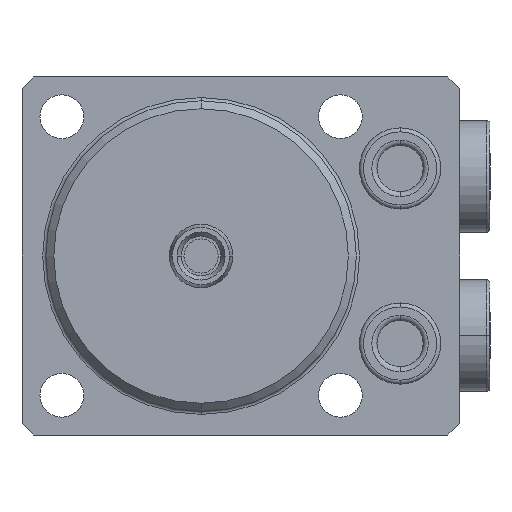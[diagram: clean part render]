
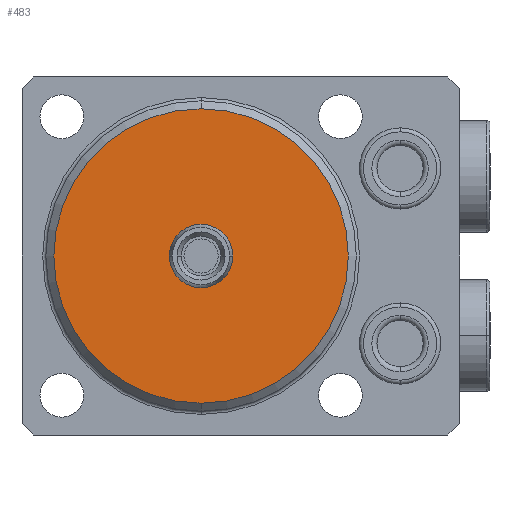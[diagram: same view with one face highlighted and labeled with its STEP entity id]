
A CAD part, front view. The second image highlights one B-rep face of the part: STEP entity #483.
In plain terms, the highlighted planar face has unit normal (0, -1, 0) as drawn and (0, 1, 0) by its records, which use the part's own axes.
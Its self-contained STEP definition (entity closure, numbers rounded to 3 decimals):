
#214=PLANE('',#5008);
#330=FACE_BOUND('',#1156,.F.);
#331=FACE_BOUND('',#1157,.F.);
#483=ADVANCED_FACE('',(#330,#331),#214,.T.);
#1156=EDGE_LOOP('',(#2074,#2075));
#1157=EDGE_LOOP('',(#2076,#2077));
#1440=CIRCLE('',#4882,4.);
#1495=CIRCLE('',#4960,18.5);
#1522=CIRCLE('',#5006,4.);
#1523=CIRCLE('',#5007,18.5);
#2074=ORIENTED_EDGE('',*,*,#3775,.T.);
#2075=ORIENTED_EDGE('',*,*,#3578,.T.);
#2076=ORIENTED_EDGE('',*,*,#3776,.T.);
#2077=ORIENTED_EDGE('',*,*,#3666,.T.);
#3130=VERTEX_POINT('',#7134);
#3131=VERTEX_POINT('',#7135);
#3202=VERTEX_POINT('',#7322);
#3203=VERTEX_POINT('',#7323);
#3578=EDGE_CURVE('',#3130,#3131,#1440,.T.);
#3666=EDGE_CURVE('',#3202,#3203,#1495,.T.);
#3775=EDGE_CURVE('',#3131,#3130,#1522,.T.);
#3776=EDGE_CURVE('',#3203,#3202,#1523,.T.);
#4882=AXIS2_PLACEMENT_3D('',#7133,#5556,#5557);
#4960=AXIS2_PLACEMENT_3D('',#7321,#5744,#5745);
#5006=AXIS2_PLACEMENT_3D('',#7616,#5893,#5894);
#5007=AXIS2_PLACEMENT_3D('',#7617,#5895,#5896);
#5008=AXIS2_PLACEMENT_3D('',#7618,#5897,#5898);
#5556=DIRECTION('',(0.,1.,0.));
#5557=DIRECTION('',(0.,0.,1.));
#5744=DIRECTION('',(0.,-1.,0.));
#5745=DIRECTION('',(0.,0.,1.));
#5893=DIRECTION('',(0.,1.,0.));
#5894=DIRECTION('',(0.,0.,1.));
#5895=DIRECTION('',(0.,-1.,0.));
#5896=DIRECTION('',(0.,0.,1.));
#5897=DIRECTION('',(0.,1.,0.));
#5898=DIRECTION('',(0.,0.,1.));
#7133=CARTESIAN_POINT('',(0.,-33.5,0.));
#7134=CARTESIAN_POINT('',(0.,-33.5,-4.));
#7135=CARTESIAN_POINT('',(0.,-33.5,4.));
#7321=CARTESIAN_POINT('',(0.,-33.5,0.));
#7322=CARTESIAN_POINT('',(0.,-33.5,-18.5));
#7323=CARTESIAN_POINT('',(0.,-33.5,18.5));
#7616=CARTESIAN_POINT('',(0.,-33.5,0.));
#7617=CARTESIAN_POINT('',(0.,-33.5,0.));
#7618=CARTESIAN_POINT('',(0.,-33.5,0.));
